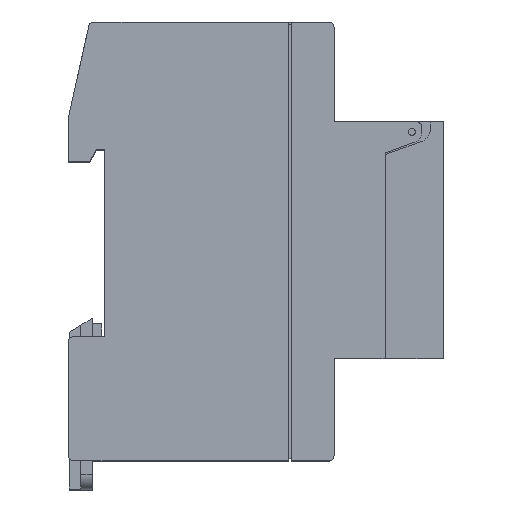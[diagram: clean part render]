
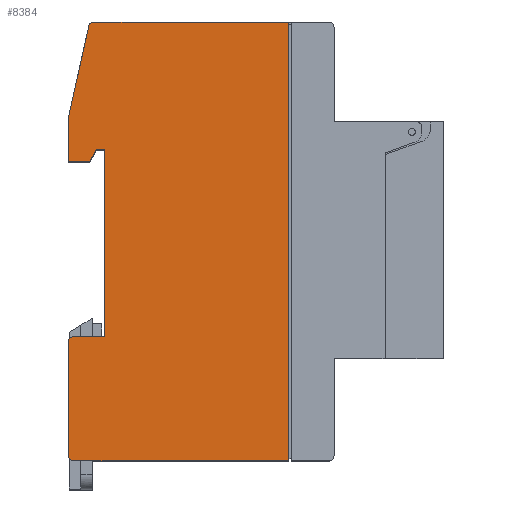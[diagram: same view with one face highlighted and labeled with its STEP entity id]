
A CAD part, top view. The second image highlights one B-rep face of the part: STEP entity #8384.
In plain terms, the highlighted planar face has unit normal (0, 0, 1).
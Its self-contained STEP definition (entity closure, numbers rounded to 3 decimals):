
#5566 = EDGE_CURVE ( 'NONE', #26178, #26211, #54448, .T. ) ;
#5596 = EDGE_CURVE ( 'NONE', #6018, #5966, #58878, .T. ) ;
#5955 = VERTEX_POINT ( 'NONE', #54585 ) ;
#5964 = VERTEX_POINT ( 'NONE', #54594 ) ;
#5966 = VERTEX_POINT ( 'NONE', #54596 ) ;
#5987 = VERTEX_POINT ( 'NONE', #54617 ) ;
#5994 = VERTEX_POINT ( 'NONE', #54624 ) ;
#6004 = VERTEX_POINT ( 'NONE', #54634 ) ;
#6012 = VERTEX_POINT ( 'NONE', #54642 ) ;
#6017 = VERTEX_POINT ( 'NONE', #54647 ) ;
#6018 = VERTEX_POINT ( 'NONE', #54648 ) ;
#6019 = VERTEX_POINT ( 'NONE', #54649 ) ;
#7786 = EDGE_CURVE ( 'NONE', #6004, #6017, #55316, .T. ) ;
#7824 = EDGE_CURVE ( 'NONE', #5964, #28682, #55525, .T. ) ;
#8384 = ADVANCED_FACE ( 'NONE', ( #21712 ), #21805, .F. ) ;
#11773 = CARTESIAN_POINT ( 'NONE',  ( -32.317, -20.7, 18. ) ) ;
#11774 = DIRECTION ( 'NONE',  ( 0., 0., 1. ) ) ;
#11775 = DIRECTION ( 'NONE',  ( -1., 0., 0. ) ) ;
#12072 = LINE ( 'NONE', #12074, #32246 ) ;
#12074 = CARTESIAN_POINT ( 'NONE',  ( 26.883, 40.1, 18. ) ) ;
#12076 = DIRECTION ( 'NONE',  ( -1., 0., 0. ) ) ;
#12103 = LINE ( 'NONE', #12105, #32239 ) ;
#12105 = CARTESIAN_POINT ( 'NONE',  ( -33.317, 13.5, 18. ) ) ;
#12106 = DIRECTION ( 'NONE',  ( 1., 0., 0. ) ) ;
#12121 = LINE ( 'NONE', #12124, #32237 ) ;
#12124 = CARTESIAN_POINT ( 'NONE',  ( -28.017, 15.8, 18. ) ) ;
#12126 = DIRECTION ( 'NONE',  ( 0.492, 0.871, 0. ) ) ;
#19787 = CARTESIAN_POINT ( 'NONE',  ( 8.583, -43.4, 18. ) ) ;
#19812 = CARTESIAN_POINT ( 'NONE',  ( -32.317, -43.4, 18. ) ) ;
#20153 = CARTESIAN_POINT ( 'NONE',  ( -26.417, -19.7, 18. ) ) ;
#20240 = CARTESIAN_POINT ( 'NONE',  ( -32.317, -19.7, 18. ) ) ;
#21712 = FACE_OUTER_BOUND ( 'NONE', #39753, .T. ) ;
#21805 = PLANE ( 'NONE',  #58030 ) ;
#21849 = CARTESIAN_POINT ( 'NONE',  ( 26.883, -43.4, 18. ) ) ;
#21851 = DIRECTION ( 'NONE',  ( 0., 0., -1. ) ) ;
#21853 = DIRECTION ( 'NONE',  ( -1., 0., 0. ) ) ;
#22791 = ORIENTED_EDGE ( 'NONE', *, *, #7824, .T. ) ;
#22793 = ORIENTED_EDGE ( 'NONE', *, *, #47051, .T. ) ;
#22794 = ORIENTED_EDGE ( 'NONE', *, *, #36792, .T. ) ;
#22796 = ORIENTED_EDGE ( 'NONE', *, *, #36788, .T. ) ;
#22798 = ORIENTED_EDGE ( 'NONE', *, *, #7786, .T. ) ;
#22800 = ORIENTED_EDGE ( 'NONE', *, *, #47019, .T. ) ;
#22802 = ORIENTED_EDGE ( 'NONE', *, *, #5596, .T. ) ;
#22804 = ORIENTED_EDGE ( 'NONE', *, *, #36779, .T. ) ;
#22806 = ORIENTED_EDGE ( 'NONE', *, *, #47045, .F. ) ;
#22807 = ORIENTED_EDGE ( 'NONE', *, *, #5566, .F. ) ;
#22808 = ORIENTED_EDGE ( 'NONE', *, *, #23923, .T. ) ;
#22810 = ORIENTED_EDGE ( 'NONE', *, *, #23953, .T. ) ;
#22811 = ORIENTED_EDGE ( 'NONE', *, *, #36649, .T. ) ;
#22812 = ORIENTED_EDGE ( 'NONE', *, *, #23876, .T. ) ;
#23876 = EDGE_CURVE ( 'NONE', #28682, #28734, #49610, .T. ) ;
#23923 = EDGE_CURVE ( 'NONE', #6019, #26211, #34117, .T. ) ;
#23953 = EDGE_CURVE ( 'NONE', #5987, #6019, #49855, .T. ) ;
#26178 = VERTEX_POINT ( 'NONE', #19787 ) ;
#26211 = VERTEX_POINT ( 'NONE', #19812 ) ;
#28682 = VERTEX_POINT ( 'NONE', #20153 ) ;
#28734 = VERTEX_POINT ( 'NONE', #20240 ) ;
#32042 = AXIS2_PLACEMENT_3D ( 'NONE', #11773, #11774, #11775 ) ;
#32046 = CIRCLE ( 'NONE', #32042, 1. ) ;
#32237 = VECTOR ( 'NONE', #12126, 1000. ) ;
#32239 = VECTOR ( 'NONE', #12106, 1000. ) ;
#32246 = VECTOR ( 'NONE', #12076, 1000. ) ;
#33921 = VECTOR ( 'NONE', #49625, 1000. ) ;
#34117 = CIRCLE ( 'NONE', #34125, 1. ) ;
#34125 = AXIS2_PLACEMENT_3D ( 'NONE', #49764, #49766, #49767 ) ;
#34223 = VECTOR ( 'NONE', #49859, 1000. ) ;
#36649 = EDGE_CURVE ( 'NONE', #28734, #5987, #32046, .T. ) ;
#36779 = EDGE_CURVE ( 'NONE', #5994, #6018, #12072, .T. ) ;
#36788 = EDGE_CURVE ( 'NONE', #6017, #6012, #12103, .T. ) ;
#36792 = EDGE_CURVE ( 'NONE', #6012, #5955, #12121, .T. ) ;
#37892 = VECTOR ( 'NONE', #39126, 1000. ) ;
#37913 = VECTOR ( 'NONE', #39212, 1000. ) ;
#37918 = VECTOR ( 'NONE', #39233, 1000. ) ;
#39124 = LINE ( 'NONE', #39125, #37892 ) ;
#39125 = CARTESIAN_POINT ( 'NONE',  ( -44.355, -27.569, 18. ) ) ;
#39126 = DIRECTION ( 'NONE',  ( -0.217, -0.976, 0. ) ) ;
#39210 = LINE ( 'NONE', #39211, #37913 ) ;
#39211 = CARTESIAN_POINT ( 'NONE',  ( 8.583, 40.101, 18. ) ) ;
#39212 = DIRECTION ( 'NONE',  ( 0., -1., 0. ) ) ;
#39231 = LINE ( 'NONE', #39232, #37918 ) ;
#39232 = CARTESIAN_POINT ( 'NONE',  ( 26.883, 15.8, 18. ) ) ;
#39233 = DIRECTION ( 'NONE',  ( 1., 0., 0. ) ) ;
#39753 = EDGE_LOOP ( 'NONE', ( #22812, #22811, #22810, #22808, #22807, #22806, #22804, #22802, #22800, #22798, #22796, #22794, #22793, #22791 ) ) ;
#47019 = EDGE_CURVE ( 'NONE', #5966, #6004, #39124, .T. ) ;
#47045 = EDGE_CURVE ( 'NONE', #5994, #26178, #39210, .T. ) ;
#47051 = EDGE_CURVE ( 'NONE', #5955, #5964, #39231, .T. ) ;
#49610 = LINE ( 'NONE', #49624, #33921 ) ;
#49624 = CARTESIAN_POINT ( 'NONE',  ( 26.883, -19.7, 18. ) ) ;
#49625 = DIRECTION ( 'NONE',  ( -1., 0., 0. ) ) ;
#49764 = CARTESIAN_POINT ( 'NONE',  ( -32.317, -42.4, 18. ) ) ;
#49766 = DIRECTION ( 'NONE',  ( 0., 0., 1. ) ) ;
#49767 = DIRECTION ( 'NONE',  ( -1., 0., 0. ) ) ;
#49855 = LINE ( 'NONE', #49858, #34223 ) ;
#49858 = CARTESIAN_POINT ( 'NONE',  ( -33.317, -43.4, 18. ) ) ;
#49859 = DIRECTION ( 'NONE',  ( 0., -1., 0. ) ) ;
#53362 = VECTOR ( 'NONE', #54459, 1000. ) ;
#54448 = LINE ( 'NONE', #54457, #53362 ) ;
#54457 = CARTESIAN_POINT ( 'NONE',  ( 26.883, -43.4, 18. ) ) ;
#54459 = DIRECTION ( 'NONE',  ( -1., 0., 0. ) ) ;
#54549 = CARTESIAN_POINT ( 'NONE',  ( -28.515, 39.1, 18. ) ) ;
#54550 = DIRECTION ( 'NONE',  ( 0., 0., 1. ) ) ;
#54551 = DIRECTION ( 'NONE',  ( -1., 0., 0. ) ) ;
#54585 = CARTESIAN_POINT ( 'NONE',  ( -28.017, 15.8, 18. ) ) ;
#54594 = CARTESIAN_POINT ( 'NONE',  ( -26.417, 15.8, 18. ) ) ;
#54596 = CARTESIAN_POINT ( 'NONE',  ( -29.491, 39.317, 18. ) ) ;
#54617 = CARTESIAN_POINT ( 'NONE',  ( -33.317, -20.7, 18. ) ) ;
#54624 = CARTESIAN_POINT ( 'NONE',  ( 8.583, 40.1, 18. ) ) ;
#54634 = CARTESIAN_POINT ( 'NONE',  ( -33.317, 22.1, 18. ) ) ;
#54642 = CARTESIAN_POINT ( 'NONE',  ( -29.317, 13.5, 18. ) ) ;
#54647 = CARTESIAN_POINT ( 'NONE',  ( -33.317, 13.5, 18. ) ) ;
#54648 = CARTESIAN_POINT ( 'NONE',  ( -28.515, 40.1, 18. ) ) ;
#54649 = CARTESIAN_POINT ( 'NONE',  ( -33.317, -42.4, 18. ) ) ;
#55316 = LINE ( 'NONE', #55324, #58640 ) ;
#55324 = CARTESIAN_POINT ( 'NONE',  ( -33.317, -43.4, 18. ) ) ;
#55326 = DIRECTION ( 'NONE',  ( 0., -1., 0. ) ) ;
#55525 = LINE ( 'NONE', #55528, #58544 ) ;
#55528 = CARTESIAN_POINT ( 'NONE',  ( -26.417, -43.4, 18. ) ) ;
#55543 = DIRECTION ( 'NONE',  ( 0., -1., 0. ) ) ;
#58030 = AXIS2_PLACEMENT_3D ( 'NONE', #21849, #21851, #21853 ) ;
#58544 = VECTOR ( 'NONE', #55543, 1000. ) ;
#58640 = VECTOR ( 'NONE', #55326, 1000. ) ;
#58875 = AXIS2_PLACEMENT_3D ( 'NONE', #54549, #54550, #54551 ) ;
#58878 = CIRCLE ( 'NONE', #58875, 1. ) ;
